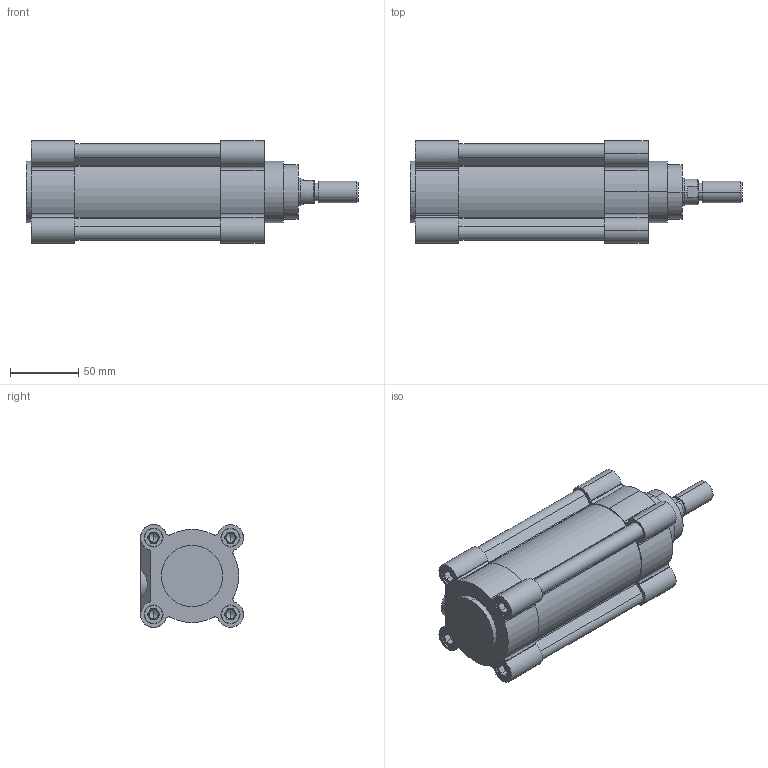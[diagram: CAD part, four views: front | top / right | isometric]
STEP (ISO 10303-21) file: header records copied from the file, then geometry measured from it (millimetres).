
FILE_DESCRIPTION (( 'STEP AP203' ), '1' );
FILE_NAME ('CPME63-50.STEP', '2023-11-23T11:21:26', ( '' ), ( '' ), 'SwSTEP 2.0', 'SolidWorks 2019', '' );
FILE_SCHEMA (( 'CONFIG_CONTROL_DESIGN' ));
Length unit declared in the file: millimetre
Products named in the file (1): CPME63-50
Bounding box: 244 x 75.53 x 75.5 mm (x, y, z)
Volume: 660864.9 mm3; surface area: 153324.4 mm2
Topology: 4 solids, 4 shells, 394 faces, 971 edges, 602 vertices
Faces by surface type: plane 185, cylinder 165, cone 44
Entity records: 11618 total; most frequent: DIRECTION 2119, CARTESIAN_POINT 2018, ORIENTED_EDGE 1902, EDGE_CURVE 951, AXIS2_PLACEMENT_3D 783, VERTEX_POINT 602, VECTOR 553, LINE 553
